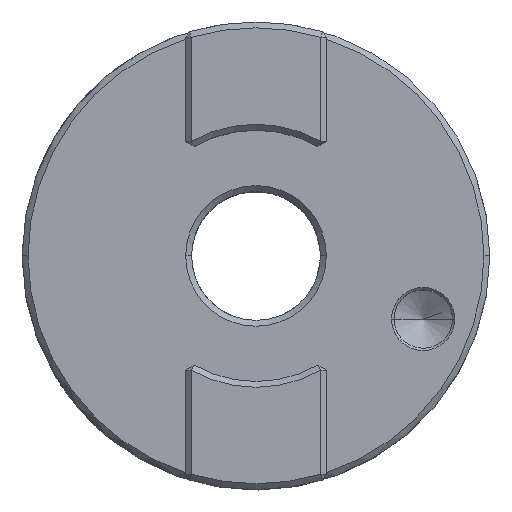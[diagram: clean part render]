
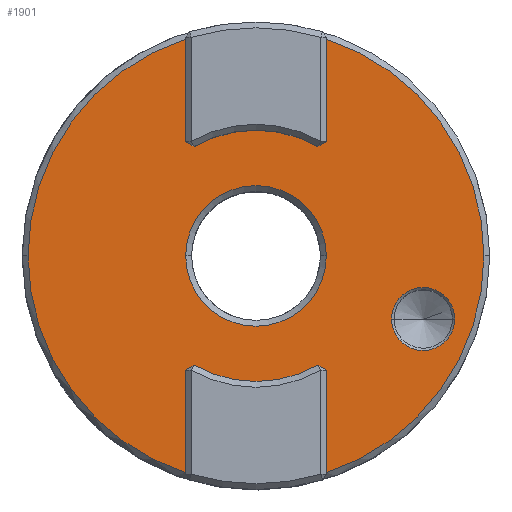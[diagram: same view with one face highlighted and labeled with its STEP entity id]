
A CAD part, top view. The second image highlights one B-rep face of the part: STEP entity #1901.
In plain terms, the highlighted planar face has unit normal (0, 0, -1).
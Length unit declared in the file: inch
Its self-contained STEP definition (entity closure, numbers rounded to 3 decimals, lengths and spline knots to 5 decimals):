
#652=DIRECTION('',(0.,1.,0.));
#653=VECTOR('',#652,0.43748);
#654=CARTESIAN_POINT('',(0.302,-0.92705,0.825));
#655=LINE('',#654,#653);
#656=CARTESIAN_POINT('',(0.,0.,0.825));
#657=DIRECTION('',(0.,0.,-1.));
#658=DIRECTION('',(1.,0.,0.));
#659=AXIS2_PLACEMENT_3D('',#656,#657,#658);
#661=CARTESIAN_POINT('',(0.,0.,0.825));
#662=DIRECTION('',(0.,0.,-1.));
#663=DIRECTION('',(0.31,0.951,0.));
#664=AXIS2_PLACEMENT_3D('',#661,#662,#663);
#666=DIRECTION('',(0.,1.,0.));
#667=VECTOR('',#666,0.43748);
#668=CARTESIAN_POINT('',(0.302,0.48957,0.825));
#669=LINE('',#668,#667);
#670=DIRECTION('',(0.864,0.504,0.));
#671=VECTOR('',#670,0.04319);
#672=CARTESIAN_POINT('',(0.26469,0.46781,0.825));
#673=LINE('',#672,#671);
#674=CARTESIAN_POINT('',(0.,0.,0.825));
#675=DIRECTION('',(0.,0.,-1.));
#676=DIRECTION('',(-0.492,0.87,0.));
#677=AXIS2_PLACEMENT_3D('',#674,#675,#676);
#679=DIRECTION('',(0.864,-0.504,0.));
#680=VECTOR('',#679,0.04319);
#681=CARTESIAN_POINT('',(-0.302,0.48957,0.825));
#682=LINE('',#681,#680);
#683=DIRECTION('',(0.,-1.,0.));
#684=VECTOR('',#683,0.43748);
#685=CARTESIAN_POINT('',(-0.302,0.92705,0.825));
#686=LINE('',#685,#684);
#687=CARTESIAN_POINT('',(0.,0.,0.825));
#688=DIRECTION('',(0.,0.,-1.));
#689=DIRECTION('',(-1.,0.,0.));
#690=AXIS2_PLACEMENT_3D('',#687,#688,#689);
#692=CARTESIAN_POINT('',(0.,0.,0.825));
#693=DIRECTION('',(0.,0.,-1.));
#694=DIRECTION('',(-0.31,-0.951,0.));
#695=AXIS2_PLACEMENT_3D('',#692,#693,#694);
#697=DIRECTION('',(0.,-1.,0.));
#698=VECTOR('',#697,0.43748);
#699=CARTESIAN_POINT('',(-0.302,-0.48957,0.825));
#700=LINE('',#699,#698);
#701=DIRECTION('',(-0.864,-0.504,0.));
#702=VECTOR('',#701,0.04319);
#703=CARTESIAN_POINT('',(-0.26469,-0.46781,0.825));
#704=LINE('',#703,#702);
#705=CARTESIAN_POINT('',(0.,0.,0.825));
#706=DIRECTION('',(0.,0.,-1.));
#707=DIRECTION('',(0.492,-0.87,0.));
#708=AXIS2_PLACEMENT_3D('',#705,#706,#707);
#710=DIRECTION('',(-0.864,0.504,0.));
#711=VECTOR('',#710,0.04319);
#712=CARTESIAN_POINT('',(0.302,-0.48957,0.825));
#713=LINE('',#712,#711);
#714=CARTESIAN_POINT('',(0.715,-0.27,0.825));
#715=DIRECTION('',(0.,0.,1.));
#716=DIRECTION('',(-1.,0.,0.));
#717=AXIS2_PLACEMENT_3D('',#714,#715,#716);
#719=CARTESIAN_POINT('',(0.,0.,0.825));
#720=DIRECTION('',(0.,0.,1.));
#721=DIRECTION('',(1.,0.,0.));
#722=AXIS2_PLACEMENT_3D('',#719,#720,#721);
#724=CARTESIAN_POINT('',(0.,0.,0.825));
#725=DIRECTION('',(0.,0.,1.));
#726=DIRECTION('',(-1.,0.,0.));
#727=AXIS2_PLACEMENT_3D('',#724,#725,#726);
#1535=CARTESIAN_POINT('',(0.715,-0.27,0.825));
#1536=DIRECTION('',(0.,0.,1.));
#1537=DIRECTION('',(1.,0.,0.));
#1538=AXIS2_PLACEMENT_3D('',#1535,#1536,#1537);
#1554=CARTESIAN_POINT('',(0.302,-0.92705,0.825));
#1555=CARTESIAN_POINT('',(0.302,-0.48957,0.825));
#1556=VERTEX_POINT('',#1554);
#1557=VERTEX_POINT('',#1555);
#1558=CARTESIAN_POINT('',(0.975,0.,0.825));
#1559=VERTEX_POINT('',#1558);
#1560=CARTESIAN_POINT('',(0.302,0.92705,0.825));
#1561=VERTEX_POINT('',#1560);
#1562=CARTESIAN_POINT('',(0.302,0.48957,0.825));
#1563=VERTEX_POINT('',#1562);
#1564=CARTESIAN_POINT('',(0.26469,0.46781,0.825));
#1565=VERTEX_POINT('',#1564);
#1566=CARTESIAN_POINT('',(-0.26469,0.46781,0.825));
#1567=VERTEX_POINT('',#1566);
#1568=CARTESIAN_POINT('',(-0.302,0.48957,0.825));
#1569=VERTEX_POINT('',#1568);
#1570=CARTESIAN_POINT('',(-0.302,0.92705,0.825));
#1571=VERTEX_POINT('',#1570);
#1572=CARTESIAN_POINT('',(-0.975,0.,0.825));
#1573=VERTEX_POINT('',#1572);
#1574=CARTESIAN_POINT('',(-0.302,-0.92705,0.825));
#1575=VERTEX_POINT('',#1574);
#1576=CARTESIAN_POINT('',(-0.302,-0.48957,0.825));
#1577=VERTEX_POINT('',#1576);
#1578=CARTESIAN_POINT('',(-0.26469,-0.46781,0.825));
#1579=VERTEX_POINT('',#1578);
#1580=CARTESIAN_POINT('',(0.26469,-0.46781,0.825));
#1581=VERTEX_POINT('',#1580);
#1582=CARTESIAN_POINT('',(0.85,-0.27,0.825));
#1583=CARTESIAN_POINT('',(0.58,-0.27,0.825));
#1584=VERTEX_POINT('',#1582);
#1585=VERTEX_POINT('',#1583);
#1586=CARTESIAN_POINT('',(0.3006,0.,0.825));
#1587=CARTESIAN_POINT('',(-0.3006,0.,0.825));
#1588=VERTEX_POINT('',#1586);
#1589=VERTEX_POINT('',#1587);
#1855=CARTESIAN_POINT('',(0.,0.,0.825));
#1856=DIRECTION('',(0.,0.,1.));
#1857=DIRECTION('',(1.,0.,0.));
#1858=AXIS2_PLACEMENT_3D('',#1855,#1856,#1857);
#1859=PLANE('',#1858);
#1861=ORIENTED_EDGE('',*,*,#1860,.F.);
#1863=ORIENTED_EDGE('',*,*,#1862,.F.);
#1865=ORIENTED_EDGE('',*,*,#1864,.F.);
#1867=ORIENTED_EDGE('',*,*,#1866,.F.);
#1869=ORIENTED_EDGE('',*,*,#1868,.F.);
#1871=ORIENTED_EDGE('',*,*,#1870,.F.);
#1873=ORIENTED_EDGE('',*,*,#1872,.F.);
#1875=ORIENTED_EDGE('',*,*,#1874,.F.);
#1877=ORIENTED_EDGE('',*,*,#1876,.F.);
#1879=ORIENTED_EDGE('',*,*,#1878,.F.);
#1881=ORIENTED_EDGE('',*,*,#1880,.F.);
#1883=ORIENTED_EDGE('',*,*,#1882,.F.);
#1885=ORIENTED_EDGE('',*,*,#1884,.F.);
#1887=ORIENTED_EDGE('',*,*,#1886,.F.);
#1888=EDGE_LOOP('',(#1861,#1863,#1865,#1867,#1869,#1871,#1873,#1875,#1877,#1879,
#1881,#1883,#1885,#1887));
#1889=FACE_OUTER_BOUND('',#1888,.F.);
#1891=ORIENTED_EDGE('',*,*,#1890,.F.);
#1892=ORIENTED_EDGE('',*,*,#1838,.F.);
#1893=EDGE_LOOP('',(#1891,#1892));
#1894=FACE_BOUND('',#1893,.F.);
#1896=ORIENTED_EDGE('',*,*,#1895,.F.);
#1898=ORIENTED_EDGE('',*,*,#1897,.F.);
#1899=EDGE_LOOP('',(#1896,#1898));
#1900=FACE_BOUND('',#1899,.F.);
#660=CIRCLE('',#659,0.975);
#665=CIRCLE('',#664,0.975);
#678=CIRCLE('',#677,0.5375);
#691=CIRCLE('',#690,0.975);
#696=CIRCLE('',#695,0.975);
#709=CIRCLE('',#708,0.5375);
#718=CIRCLE('',#717,0.135);
#723=CIRCLE('',#722,0.3006);
#728=CIRCLE('',#727,0.3006);
#1539=CIRCLE('',#1538,0.135);
#1838=EDGE_CURVE('',#1585,#1584,#718,.T.);
#1860=EDGE_CURVE('',#1556,#1557,#655,.T.);
#1862=EDGE_CURVE('',#1559,#1556,#660,.T.);
#1864=EDGE_CURVE('',#1561,#1559,#665,.T.);
#1866=EDGE_CURVE('',#1563,#1561,#669,.T.);
#1868=EDGE_CURVE('',#1565,#1563,#673,.T.);
#1870=EDGE_CURVE('',#1567,#1565,#678,.T.);
#1872=EDGE_CURVE('',#1569,#1567,#682,.T.);
#1874=EDGE_CURVE('',#1571,#1569,#686,.T.);
#1876=EDGE_CURVE('',#1573,#1571,#691,.T.);
#1878=EDGE_CURVE('',#1575,#1573,#696,.T.);
#1880=EDGE_CURVE('',#1577,#1575,#700,.T.);
#1882=EDGE_CURVE('',#1579,#1577,#704,.T.);
#1884=EDGE_CURVE('',#1581,#1579,#709,.T.);
#1886=EDGE_CURVE('',#1557,#1581,#713,.T.);
#1890=EDGE_CURVE('',#1584,#1585,#1539,.T.);
#1895=EDGE_CURVE('',#1588,#1589,#723,.T.);
#1897=EDGE_CURVE('',#1589,#1588,#728,.T.);
#1901=ADVANCED_FACE('',(#1889,#1894,#1900),#1859,.F.);
